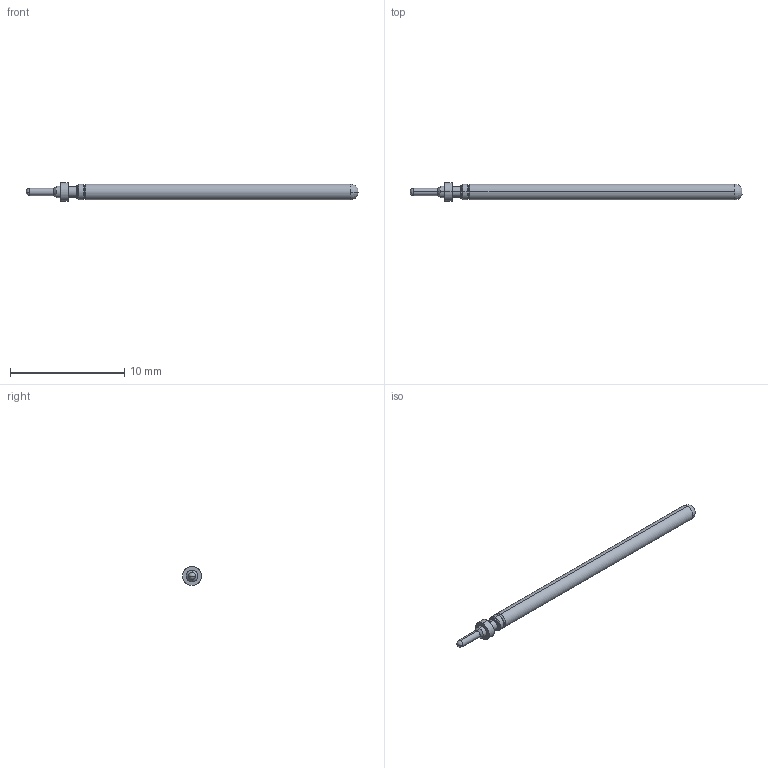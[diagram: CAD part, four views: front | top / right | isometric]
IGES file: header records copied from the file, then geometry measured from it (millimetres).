
Start section: SolidWorks IGES file using analytic representation for surfaces
Global section: file name: Z:\probe solid model mockups\Solidworks models\LTP-25\LTP-25TJ RECD.IGS; native system: SolidWorks 2006 by SolidWorks Corporation; preprocessor: SolidWorks 2006 by SolidWorks Corporation; author: tsakatani; date: 071214.143544; units: inch
Bounding box: 29.08 x 1.65 x 1.65 mm (x, y, z)
Surface area: 122.3 mm2 (no closed solid volume)
Topology: 0 solids, 0 shells, 30 faces, 224 edges, 222 vertices
Faces by surface type: revolution 22, bspline 8
